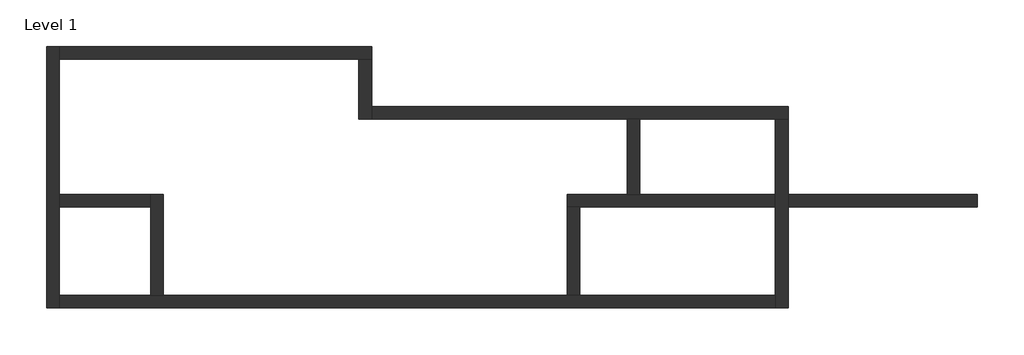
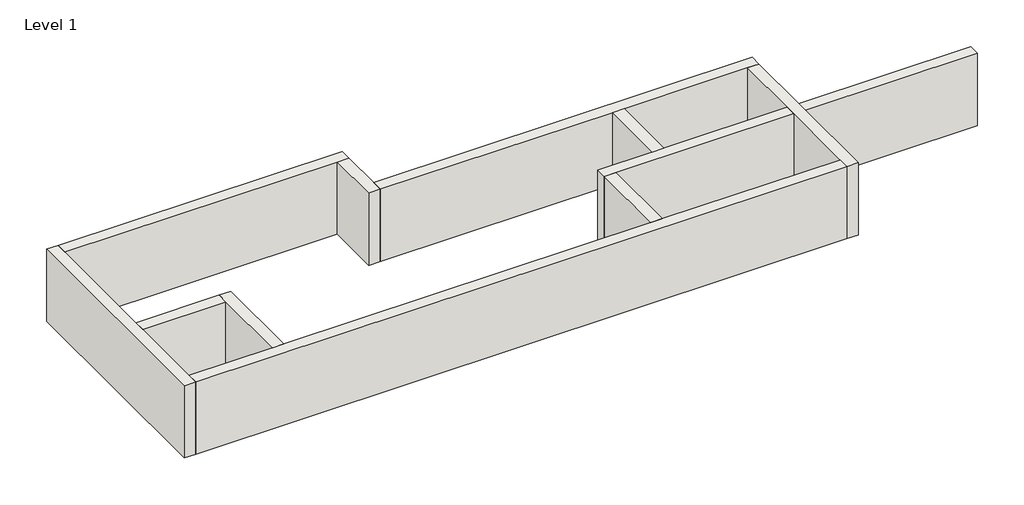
# One storey: 11 walls.
"""IFC4 building model written with IfcOpenShell, lengths in millimetres."""

from ifc_helpers import new_model, si_unit, origin, origin_with_axes, place, context, project, spatial, polyline, outline, extrude, faceted_brep, element, save

model = new_model("IFC4")

# Units and contexts
model_context = context("Model", 3, world=origin())
ifc_project = project(units=[si_unit("LENGTHUNIT", "METRE", prefix="MILLI")], contexts=[model_context])

# Site, building, storey
site = spatial("IfcSite", under=ifc_project)
building = spatial("IfcBuilding", under=site)
storey = spatial("IfcBuildingStorey", under=building, Name="Level 1", Elevation=0.0)

# Walls
placement = place(None, origin())
element("IfcWall", 1, ObjectType="Generic - 480mm (Exterior)", at=placement, inside=storey, context=model_context, shape_type="Brep", body=[
    faceted_brep([(480.0, 0.0, 0.0), (480.0, 480.0, 0.0), (480.0, 3840.0, 0.0), (480.0, 4320.0, 0.0), (480.0, 9480.0, 0.0), (480.0, 9960.0, 0.0), (480.0, 9960.0, 3200.0), (480.0, 9480.0, 3200.0), (480.0, 4320.0, 3200.0), (480.0, 3840.0, 3200.0), (480.0, 480.0, 3200.0), (480.0, 0.0, 3200.0), (0.0, 0.0, 0.0), (0.0, 0.0, 3200.0), (0.0, 9960.0, 3200.0), (0.0, 9960.0, 0.0)], [[[0, 1, 2, 3, 4, 5, 6, 7, 8, 9, 10, 11]], [[12, 13, 14, 15]], [[5, 4, 3, 2, 1, 0, 12, 15]], [[11, 10, 9, 8, 7, 6, 14, 13]], [[6, 5, 15, 14]], [[0, 11, 13, 12]]]),
])
element("IfcWall", 2, ObjectType="Generic - 480mm (Exterior)", at=placement, inside=storey, context=model_context, shape_type="Brep", body=[
    faceted_brep([(480.0, 9480.0, 0.0), (11880.0, 9480.0, 0.0), (12360.0, 9480.0, 0.0), (12360.0, 9480.0, 3200.0), (11880.0, 9480.0, 3200.0), (480.0, 9480.0, 3200.0), (480.0, 9960.0, 0.0), (480.0, 9960.0, 3200.0), (12360.0, 9960.0, 3200.0), (12360.0, 9960.0, 0.0)], [[[0, 1, 2, 3, 4, 5]], [[6, 7, 8, 9]], [[2, 1, 0, 6, 9]], [[5, 4, 3, 8, 7]], [[0, 5, 7, 6]], [[3, 2, 9, 8]]]),
])
element("IfcWall", 3, ObjectType="Generic - 480mm (Exterior)", at=placement, inside=storey, context=model_context, shape_type="Brep", body=[
    faceted_brep([(11880.0, 9480.0, 0.0), (11880.0, 7200.0, 0.0), (11880.0, 7200.0, 3200.0), (11880.0, 9480.0, 3200.0), (12360.0, 9480.0, 0.0), (12360.0, 9480.0, 3200.0), (12360.0, 7680.0, 3200.0), (12360.0, 7200.0, 3200.0), (12360.0, 7200.0, 0.0), (12360.0, 7680.0, 0.0)], [[[0, 1, 2, 3]], [[4, 5, 6, 7, 8, 9]], [[1, 0, 4, 9, 8]], [[3, 2, 7, 6, 5]], [[0, 3, 5, 4]], [[2, 1, 8, 7]]]),
])
element("IfcWall", 4, ObjectType="Generic - 480mm (Exterior)", at=placement, inside=storey, context=model_context, shape_type="Brep", body=[
    faceted_brep([(12360.0, 7200.0, 0.0), (22080.0, 7200.0, 0.0), (22560.0, 7200.0, 0.0), (27720.0, 7200.0, 0.0), (28200.0, 7200.0, 0.0), (28200.0, 7200.0, 3200.0), (27720.0, 7200.0, 3200.0), (22560.0, 7200.0, 3200.0), (22080.0, 7200.0, 3200.0), (12360.0, 7200.0, 3200.0), (12360.0, 7680.0, 0.0), (12360.0, 7680.0, 3200.0), (28200.0, 7680.0, 3200.0), (28200.0, 7680.0, 0.0)], [[[0, 1, 2, 3, 4, 5, 6, 7, 8, 9]], [[10, 11, 12, 13]], [[4, 3, 2, 1, 0, 10, 13]], [[9, 8, 7, 6, 5, 12, 11]], [[0, 9, 11, 10]], [[5, 4, 13, 12]]]),
])
element("IfcWall", 5, ObjectType="Generic - 480mm (Exterior)", at=placement, inside=storey, context=model_context, shape_type="Brep", body=[
    faceted_brep([(27720.0, 7200.0, 0.0), (27720.0, 4320.0, 0.0), (27720.0, 3840.0, 0.0), (27720.0, 480.0, 0.0), (27720.0, 0.0, 0.0), (27720.0, 0.0, 3200.0), (27720.0, 480.0, 3200.0), (27720.0, 3840.0, 3200.0), (27720.0, 4320.0, 3200.0), (27720.0, 7200.0, 3200.0), (28200.0, 7200.0, 0.0), (28200.0, 7200.0, 3200.0), (28200.0, 4320.0, 3200.0), (28200.0, 3840.0, 3200.0), (28200.0, 0.0, 3200.0), (28200.0, 0.0, 0.0), (28200.0, 3840.0, 0.0), (28200.0, 4320.0, 0.0)], [[[0, 1, 2, 3, 4, 5, 6, 7, 8, 9]], [[10, 11, 12, 13, 14, 15, 16, 17]], [[4, 3, 2, 1, 0, 10, 17, 16, 15]], [[9, 8, 7, 6, 5, 14, 13, 12, 11]], [[0, 9, 11, 10]], [[5, 4, 15, 14]]]),
])
element("IfcWall", 6, ObjectType="Generic - 480mm (Exterior)", at=placement, inside=storey, context=model_context, shape_type="Brep", body=[
    faceted_brep([(27720.0, 480.0, 0.0), (20280.0, 480.0, 0.0), (19800.0, 480.0, 0.0), (4440.0, 480.0, 0.0), (3960.0, 480.0, 0.0), (480.0, 480.0, 0.0), (480.0, 480.0, 3200.0), (3960.0, 480.0, 3200.0), (4440.0, 480.0, 3200.0), (19800.0, 480.0, 3200.0), (20280.0, 480.0, 3200.0), (27720.0, 480.0, 3200.0), (27720.0, 0.0, 0.0), (27720.0, 0.0, 3200.0), (480.0, 0.0, 3200.0), (480.0, 0.0, 0.0)], [[[0, 1, 2, 3, 4, 5, 6, 7, 8, 9, 10, 11]], [[12, 13, 14, 15]], [[5, 4, 3, 2, 1, 0, 12, 15]], [[11, 10, 9, 8, 7, 6, 14, 13]], [[6, 5, 15, 14]], [[0, 11, 13, 12]]]),
])
element("IfcWall", 7, ObjectType="Generic - 480mm (Exterior)", at=placement, inside=storey, context=model_context, shape_type="Brep", body=[
    faceted_brep([(4440.0, 480.0, 0.0), (4440.0, 4320.0, 0.0), (4440.0, 4320.0, 3200.0), (4440.0, 480.0, 3200.0), (3960.0, 480.0, 0.0), (3960.0, 480.0, 3200.0), (3960.0, 3840.0, 3200.0), (3960.0, 4320.0, 3200.0), (3960.0, 4320.0, 0.0), (3960.0, 3840.0, 0.0)], [[[0, 1, 2, 3]], [[4, 5, 6, 7, 8, 9]], [[1, 0, 4, 9, 8]], [[3, 2, 7, 6, 5]], [[0, 3, 5, 4]], [[2, 1, 8, 7]]]),
])
element("IfcWall", 8, ObjectType="Generic - 480mm (Exterior)", at=placement, inside=storey, context=model_context, shape_type="SweptSolid", body=[
    extrude(outline(polyline([(480.0, 4320.0), (3960.0, 4320.0), (3960.0, 3840.0), (480.0, 3840.0), (480.0, 4320.0)])), origin_with_axes(), (0.0, 0.0, 1.0), 3200.0),
])
element("IfcWall", 9, ObjectType="Generic - 480mm (Exterior)", at=placement, inside=storey, context=model_context, shape_type="SweptSolid", body=[
    extrude(outline(polyline([(22080.0, 4320.0), (22080.0, 7200.0), (22560.0, 7200.0), (22560.0, 4320.0), (22080.0, 4320.0)])), origin_with_axes(), (0.0, 0.0, 1.0), 3200.0),
])
element("IfcWall", 10, ObjectType="Generic - 480mm (Exterior)", at=placement, inside=storey, context=model_context, shape_type="Brep", body=[
    faceted_brep([(35400.0, 4320.0, 3200.0), (35400.0, 4320.0, 0.0), (28200.0, 4320.0, 0.0), (28200.0, 4320.0, 3200.0), (35400.0, 3840.0, 0.0), (35400.0, 3840.0, 3200.0), (28200.0, 3840.0, 3200.0), (28200.0, 3840.0, 0.0)], [[[0, 1, 2, 3]], [[4, 5, 6, 7]], [[1, 4, 7, 2]], [[5, 0, 3, 6]], [[1, 0, 5, 4]], [[3, 2, 7, 6]]]),
    faceted_brep([(19800.0, 4320.0, 0.0), (19800.0, 4320.0, 3200.0), (22080.0, 4320.0, 3200.0), (22560.0, 4320.0, 3200.0), (27720.0, 4320.0, 3200.0), (27720.0, 4320.0, 0.0), (22560.0, 4320.0, 0.0), (22080.0, 4320.0, 0.0), (19800.0, 3840.0, 3200.0), (19800.0, 3840.0, 0.0), (20280.0, 3840.0, 0.0), (27720.0, 3840.0, 0.0), (27720.0, 3840.0, 3200.0), (20280.0, 3840.0, 3200.0)], [[[0, 1, 2, 3, 4, 5, 6, 7]], [[8, 9, 10, 11, 12, 13]], [[9, 0, 7, 6, 5, 11, 10]], [[1, 8, 13, 12, 4, 3, 2]], [[1, 0, 9, 8]], [[5, 4, 12, 11]]]),
])
element("IfcWall", 11, ObjectType="Generic - 480mm (Exterior)", at=placement, inside=storey, context=model_context, shape_type="SweptSolid", body=[
    extrude(outline(polyline([(19800.0, 480.0), (19800.0, 3840.0), (20280.0, 3840.0), (20280.0, 480.0), (19800.0, 480.0)])), origin_with_axes(), (0.0, 0.0, 1.0), 3200.0),
])

save(model, "model.ifc")
